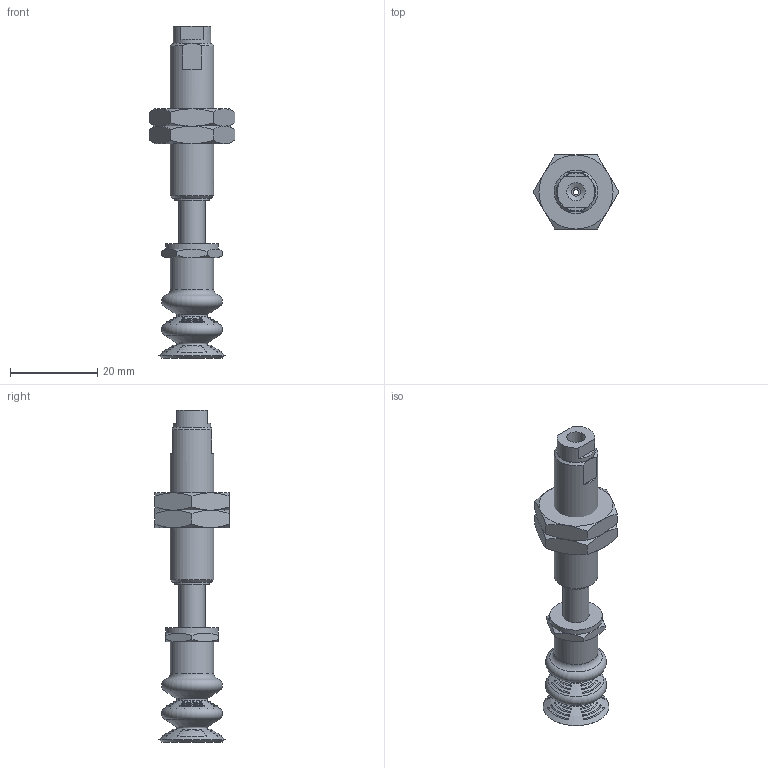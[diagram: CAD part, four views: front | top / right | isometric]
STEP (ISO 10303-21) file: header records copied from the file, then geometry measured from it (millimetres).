
FILE_DESCRIPTION(('STEP AP203'),'1');
FILE_NAME('-LB.stp','2025-04-04T02:12:50',(' '),(' '),'Spatial InterOp 3D',' ',' ');
FILE_SCHEMA(('CONFIG_CONTROL_DESIGN'));
Length unit declared in the file: millimetre
Products named in the file (7): BNABPCTH-15-10-※-LB; __; BODY; NUT; BPCG-15-※; TN-PC-10-M5
Assembly tree (6 placements, depth 2):
  BNABPCTH-15-10-※-LB
    __
    BODY
    NUT
    NUT
    BPCG-15-※
    TN-PC-10-M5
Bounding box: 19.63 x 17 x 76.2 mm (x, y, z)
Volume: 6715.9 mm3; surface area: 5665.3 mm2
Topology: 6 solids, 6 shells, 201 faces, 624 edges, 405 vertices
Faces by surface type: sphere 58, cone 49, plane 43, torus 34, cylinder 17
Full cylindrical faces by diameter (mm): 1.25 x1, 2 x1, 4.2 x2, 5 x5, 6 x1, 8 x1, 8.7 x1, 9 x2, 10 x2, 12 x1
Entity records: 6167 total; most frequent: CARTESIAN_POINT 1599, DIRECTION 924, ORIENTED_EDGE 788, AXIS2_PLACEMENT_3D 446, EDGE_CURVE 394, EDGE_LOOP 282, VERTEX_POINT 274, CIRCLE 238
